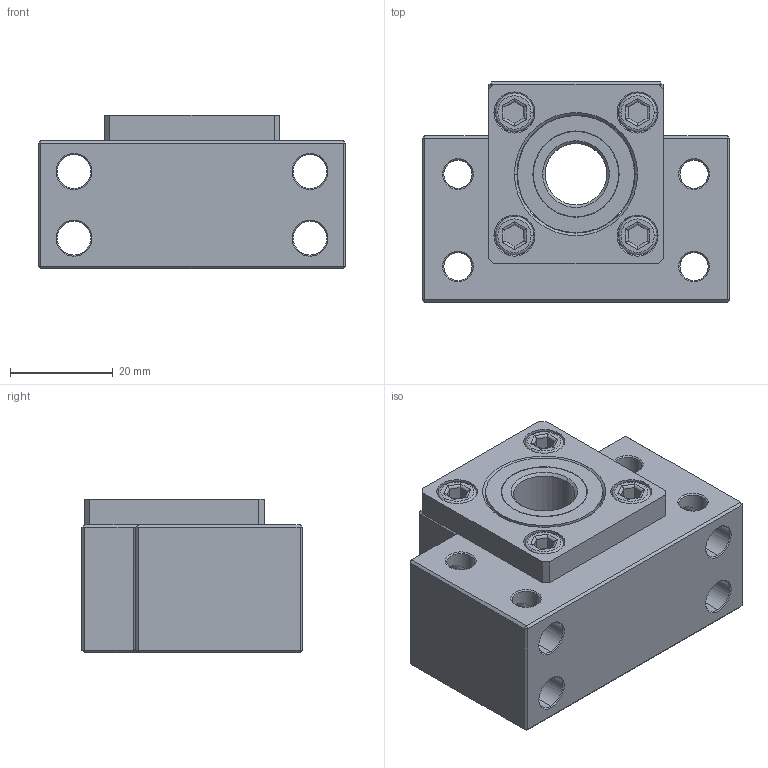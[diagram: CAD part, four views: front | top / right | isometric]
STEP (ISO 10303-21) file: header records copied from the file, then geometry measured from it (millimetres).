
FILE_DESCRIPTION (( 'STEP AP214' ), '1' );
FILE_NAME ('BK12.STEP', '2020-11-10T12:24:34', ( '' ), ( '' ), 'SwSTEP 2.0', 'SolidWorks 2018', '' );
FILE_SCHEMA (( 'AUTOMOTIVE_DESIGN' ));
Length unit declared in the file: millimetre
Products named in the file (1): BK12
Bounding box: 60 x 43.1 x 30 mm (x, y, z)
Volume: 51262.6 mm3; surface area: 24131.5 mm2
Topology: 7 solids, 7 shells, 352 faces, 888 edges, 550 vertices
Faces by surface type: plane 168, cylinder 99, cone 45, bspline 32, torus 8
Entity records: 14587 total; most frequent: CARTESIAN_POINT 5023, ORIENTED_EDGE 1760, DIRECTION 1530, EDGE_CURVE 880, VERTEX_POINT 550, LINE 536, VECTOR 536, AXIS2_PLACEMENT_3D 497
